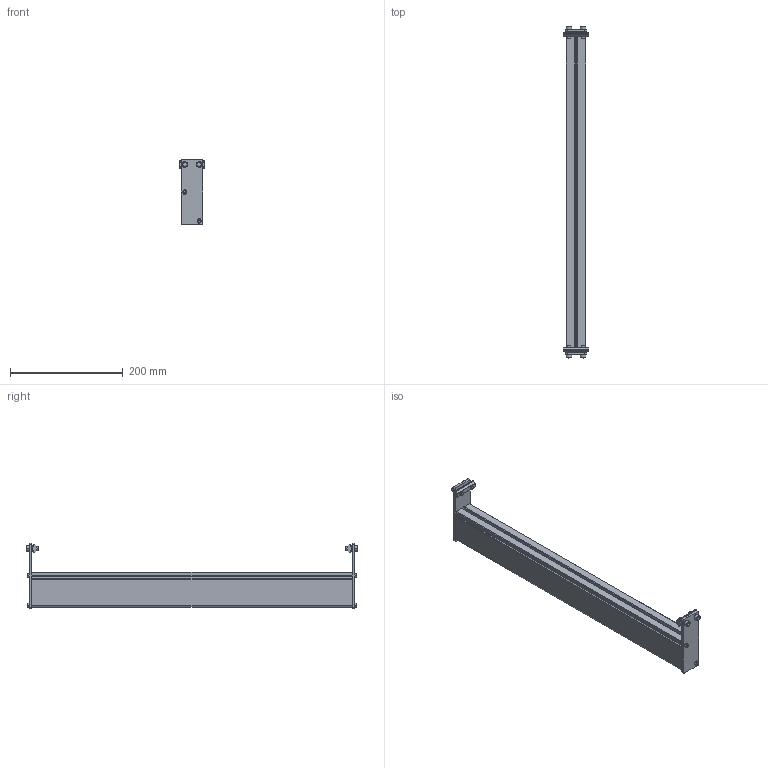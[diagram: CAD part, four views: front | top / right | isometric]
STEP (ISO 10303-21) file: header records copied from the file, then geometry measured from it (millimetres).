
FILE_DESCRIPTION((''),'2;1');
FILE_NAME('350974-22_ASM','2023-03-22T',('jenni.wallner'),(''),'PRO/ENGINEER BY PARAMETRIC TECHNOLOGY CORPORATION, 2012420','PRO/ENGINEER BY PARAMETRIC TECHNOLOGY CORPORATION, 2012420','');
FILE_SCHEMA(('CONFIG_CONTROL_DESIGN'));
Length unit declared in the file: inch
Products named in the file (6): 350979-02236; 350978; 200830M; 920616M; 920416M; 350974-22_ASM
Assembly tree (13 placements, depth 2):
  350974-22_ASM
    350979-02236
    350978  x2
    200830M  x2
    920616M  x4
    920416M  x4
Bounding box: 44.45 x 589.04 x 116.98 mm (x, y, z)
Volume: 498408.4 mm3; surface area: 317714.7 mm2
Topology: 13 solids, 17 shells, 342 faces, 868 edges, 568 vertices
Faces by surface type: plane 168, cylinder 142, cone 32
Entity records: 5990 total; most frequent: DIRECTION 1076, CARTESIAN_POINT 1015, ORIENTED_EDGE 972, EDGE_CURVE 490, AXIS2_PLACEMENT_3D 385, VERTEX_POINT 324, VECTOR 306, LINE 306
